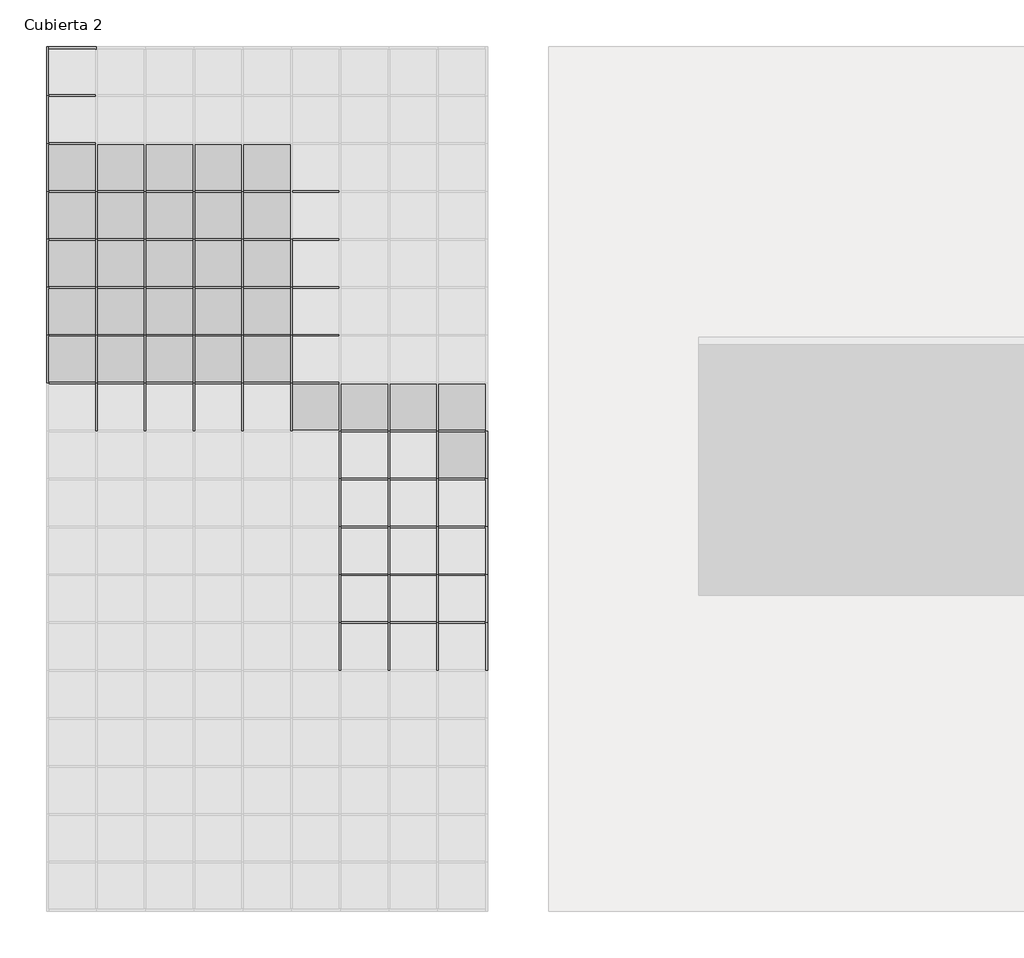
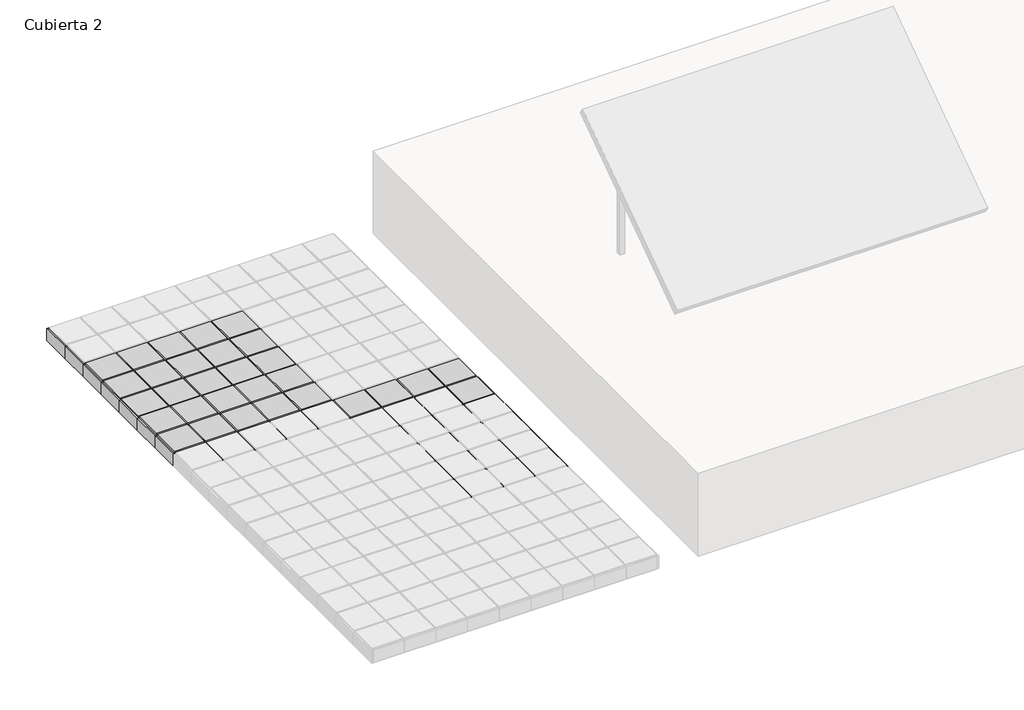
# One storey, part 3 of 4: 99 members, 30 plates.
"""IFC4 building model written with IfcOpenShell, lengths in millimetres."""

from ifc_helpers import new_model, si_unit, origin, place, context, project, spatial, transform, mapped, element, save
from components import montante_rectangular_ea949198, montante_rectangular_18b8adfa, montante_rectangular_e7061a9b, montante_rectangular_b9ac4352, montante_rectangular_c2f012c7, panel_de_sistema_3571c154

model = new_model("IFC4")

# Units and contexts
model_context = context("Model", 3, world=origin())
ifc_project = project(units=[si_unit("LENGTHUNIT", "METRE", prefix="MILLI")], contexts=[model_context])

# Site, building, storey
site = spatial("IfcSite", under=ifc_project)
building = spatial("IfcBuilding", under=site)
storey = spatial("IfcBuildingStorey", under=building, Name="Cubierta 2", Elevation=9000.0)

# Members
placement = place(None, origin())
montante_rectangular_shape = montante_rectangular_ea949198(model_context)
element("IfcMember", 1, ObjectType="Montante rectangular : Junta de paves", at=placement, inside=storey, context=model_context, shape_type="MappedRepresentation", body=[
    mapped(montante_rectangular_shape, transform((-4827.7268467, -6864.3335704, 8750.0), x_axis=(0.0, 1.0, 0.0), y_axis=(0.0, 0.0, -1.0), z_axis=(-1.0, 0.0, 0.0))),
])
element("IfcMember", 2, ObjectType="Montante rectangular : Junta de paves", at=placement, inside=storey, context=model_context, shape_type="MappedRepresentation", body=[
    mapped(montante_rectangular_shape, transform((-4628.8379579, -6864.3335704, 8750.0), x_axis=(0.0, 1.0, 0.0), y_axis=(0.0, 0.0, -1.0), z_axis=(-1.0, 0.0, 0.0))),
])
element("IfcMember", 3, ObjectType="Montante rectangular : Junta de paves", at=placement, inside=storey, context=model_context, shape_type="MappedRepresentation", body=[
    mapped(montante_rectangular_shape, transform((-4429.949069, -6864.3335704, 8750.0), x_axis=(0.0, 1.0, 0.0), y_axis=(0.0, 0.0, -1.0), z_axis=(-1.0, 0.0, 0.0))),
])
element("IfcMember", 4, ObjectType="Montante rectangular : Junta de paves", at=placement, inside=storey, context=model_context, shape_type="MappedRepresentation", body=[
    mapped(montante_rectangular_shape, transform((-4827.7268467, -6668.7780148, 8750.0), x_axis=(0.0, 1.0, 0.0), y_axis=(0.0, 0.0, -1.0), z_axis=(-1.0, 0.0, 0.0))),
])
element("IfcMember", 5, ObjectType="Montante rectangular : Junta de paves", at=placement, inside=storey, context=model_context, shape_type="MappedRepresentation", body=[
    mapped(montante_rectangular_shape, transform((-4628.8379579, -6668.7780148, 8750.0), x_axis=(0.0, 1.0, 0.0), y_axis=(0.0, 0.0, -1.0), z_axis=(-1.0, 0.0, 0.0))),
])
element("IfcMember", 6, ObjectType="Montante rectangular : Junta de paves", at=placement, inside=storey, context=model_context, shape_type="MappedRepresentation", body=[
    mapped(montante_rectangular_shape, transform((-4429.949069, -6668.7780148, 8750.0), x_axis=(0.0, 1.0, 0.0), y_axis=(0.0, 0.0, -1.0), z_axis=(-1.0, 0.0, 0.0))),
])
element("IfcMember", 7, ObjectType="Montante rectangular : Junta de paves", at=placement, inside=storey, context=model_context, shape_type="MappedRepresentation", body=[
    mapped(montante_rectangular_shape, transform((-4827.7268467, -6473.2224592, 8750.0), x_axis=(0.0, 1.0, 0.0), y_axis=(0.0, 0.0, -1.0), z_axis=(-1.0, 0.0, 0.0))),
])
element("IfcMember", 8, ObjectType="Montante rectangular : Junta de paves", at=placement, inside=storey, context=model_context, shape_type="MappedRepresentation", body=[
    mapped(montante_rectangular_shape, transform((-4628.8379579, -6473.2224592, 8750.0), x_axis=(0.0, 1.0, 0.0), y_axis=(0.0, 0.0, -1.0), z_axis=(-1.0, 0.0, 0.0))),
])
element("IfcMember", 9, ObjectType="Montante rectangular : Junta de paves", at=placement, inside=storey, context=model_context, shape_type="MappedRepresentation", body=[
    mapped(montante_rectangular_shape, transform((-4429.949069, -6473.2224592, 8750.0), x_axis=(0.0, 1.0, 0.0), y_axis=(0.0, 0.0, -1.0), z_axis=(-1.0, 0.0, 0.0))),
])
element("IfcMember", 10, ObjectType="Montante rectangular : Junta de paves", at=placement, inside=storey, context=model_context, shape_type="MappedRepresentation", body=[
    mapped(montante_rectangular_shape, transform((-4827.7268467, -6277.6669037, 8750.0), x_axis=(0.0, 1.0, 0.0), y_axis=(0.0, 0.0, -1.0), z_axis=(-1.0, 0.0, 0.0))),
])
element("IfcMember", 11, ObjectType="Montante rectangular : Junta de paves", at=placement, inside=storey, context=model_context, shape_type="MappedRepresentation", body=[
    mapped(montante_rectangular_shape, transform((-4628.8379579, -6277.6669037, 8750.0), x_axis=(0.0, 1.0, 0.0), y_axis=(0.0, 0.0, -1.0), z_axis=(-1.0, 0.0, 0.0))),
])
element("IfcMember", 12, ObjectType="Montante rectangular : Junta de paves", at=placement, inside=storey, context=model_context, shape_type="MappedRepresentation", body=[
    mapped(montante_rectangular_shape, transform((-4429.949069, -6277.6669037, 8750.0), x_axis=(0.0, 1.0, 0.0), y_axis=(0.0, 0.0, -1.0), z_axis=(-1.0, 0.0, 0.0))),
])
element("IfcMember", 13, ObjectType="Montante rectangular : Junta de paves", at=placement, inside=storey, context=model_context, shape_type="MappedRepresentation", body=[
    mapped(montante_rectangular_shape, transform((-4827.7268467, -6082.1113481, 8750.0), x_axis=(0.0, 1.0, 0.0), y_axis=(0.0, 0.0, -1.0), z_axis=(-1.0, 0.0, 0.0))),
])
element("IfcMember", 14, ObjectType="Montante rectangular : Junta de paves", at=placement, inside=storey, context=model_context, shape_type="MappedRepresentation", body=[
    mapped(montante_rectangular_shape, transform((-4628.8379579, -6082.1113481, 8750.0), x_axis=(0.0, 1.0, 0.0), y_axis=(0.0, 0.0, -1.0), z_axis=(-1.0, 0.0, 0.0))),
])
element("IfcMember", 15, ObjectType="Montante rectangular : Junta de paves", at=placement, inside=storey, context=model_context, shape_type="MappedRepresentation", body=[
    mapped(montante_rectangular_shape, transform((-4429.949069, -6082.1113481, 8750.0), x_axis=(0.0, 1.0, 0.0), y_axis=(0.0, 0.0, -1.0), z_axis=(-1.0, 0.0, 0.0))),
])
element("IfcMember", 16, ObjectType="Montante rectangular : Junta de paves", at=placement, inside=storey, context=model_context, shape_type="MappedRepresentation", body=[
    mapped(montante_rectangular_shape, transform((-6021.0601801, -5886.5557926, 8750.0), x_axis=(0.0, 1.0, 0.0), y_axis=(0.0, 0.0, -1.0), z_axis=(-1.0, 0.0, 0.0))),
])
element("IfcMember", 17, ObjectType="Montante rectangular : Junta de paves", at=placement, inside=storey, context=model_context, shape_type="MappedRepresentation", body=[
    mapped(montante_rectangular_shape, transform((-5822.1712912, -5886.5557926, 8750.0), x_axis=(0.0, 1.0, 0.0), y_axis=(0.0, 0.0, -1.0), z_axis=(-1.0, 0.0, 0.0))),
])
element("IfcMember", 18, ObjectType="Montante rectangular : Junta de paves", at=placement, inside=storey, context=model_context, shape_type="MappedRepresentation", body=[
    mapped(montante_rectangular_shape, transform((-5623.2824023, -5886.5557926, 8750.0), x_axis=(0.0, 1.0, 0.0), y_axis=(0.0, 0.0, -1.0), z_axis=(-1.0, 0.0, 0.0))),
])
element("IfcMember", 19, ObjectType="Montante rectangular : Junta de paves", at=placement, inside=storey, context=model_context, shape_type="MappedRepresentation", body=[
    mapped(montante_rectangular_shape, transform((-5424.3935134, -5886.5557926, 8750.0), x_axis=(0.0, 1.0, 0.0), y_axis=(0.0, 0.0, -1.0), z_axis=(-1.0, 0.0, 0.0))),
])
element("IfcMember", 20, ObjectType="Montante rectangular : Junta de paves", at=placement, inside=storey, context=model_context, shape_type="MappedRepresentation", body=[
    mapped(montante_rectangular_shape, transform((-5225.5046245, -5886.5557926, 8750.0), x_axis=(0.0, 1.0, 0.0), y_axis=(0.0, 0.0, -1.0), z_axis=(-1.0, 0.0, 0.0))),
])
element("IfcMember", 21, ObjectType="Montante rectangular : Junta de paves", at=placement, inside=storey, context=model_context, shape_type="MappedRepresentation", body=[
    mapped(montante_rectangular_shape, transform((-5026.6157356, -5886.5557926, 8750.0), x_axis=(0.0, 1.0, 0.0), y_axis=(0.0, 0.0, -1.0), z_axis=(-1.0, 0.0, 0.0))),
])
element("IfcMember", 22, ObjectType="Montante rectangular : Junta de paves", at=placement, inside=storey, context=model_context, shape_type="MappedRepresentation", body=[
    mapped(montante_rectangular_shape, transform((-6021.0601801, -5691.000237, 8750.0), x_axis=(0.0, 1.0, 0.0), y_axis=(0.0, 0.0, -1.0), z_axis=(-1.0, 0.0, 0.0))),
])
element("IfcMember", 23, ObjectType="Montante rectangular : Junta de paves", at=placement, inside=storey, context=model_context, shape_type="MappedRepresentation", body=[
    mapped(montante_rectangular_shape, transform((-5822.1712912, -5691.000237, 8750.0), x_axis=(0.0, 1.0, 0.0), y_axis=(0.0, 0.0, -1.0), z_axis=(-1.0, 0.0, 0.0))),
])
element("IfcMember", 24, ObjectType="Montante rectangular : Junta de paves", at=placement, inside=storey, context=model_context, shape_type="MappedRepresentation", body=[
    mapped(montante_rectangular_shape, transform((-5623.2824023, -5691.000237, 8750.0), x_axis=(0.0, 1.0, 0.0), y_axis=(0.0, 0.0, -1.0), z_axis=(-1.0, 0.0, 0.0))),
])
element("IfcMember", 25, ObjectType="Montante rectangular : Junta de paves", at=placement, inside=storey, context=model_context, shape_type="MappedRepresentation", body=[
    mapped(montante_rectangular_shape, transform((-5424.3935134, -5691.000237, 8750.0), x_axis=(0.0, 1.0, 0.0), y_axis=(0.0, 0.0, -1.0), z_axis=(-1.0, 0.0, 0.0))),
])
element("IfcMember", 26, ObjectType="Montante rectangular : Junta de paves", at=placement, inside=storey, context=model_context, shape_type="MappedRepresentation", body=[
    mapped(montante_rectangular_shape, transform((-5225.5046245, -5691.000237, 8750.0), x_axis=(0.0, 1.0, 0.0), y_axis=(0.0, 0.0, -1.0), z_axis=(-1.0, 0.0, 0.0))),
])
element("IfcMember", 27, ObjectType="Montante rectangular : Junta de paves", at=placement, inside=storey, context=model_context, shape_type="MappedRepresentation", body=[
    mapped(montante_rectangular_shape, transform((-5026.6157356, -5691.000237, 8750.0), x_axis=(0.0, 1.0, 0.0), y_axis=(0.0, 0.0, -1.0), z_axis=(-1.0, 0.0, 0.0))),
])
element("IfcMember", 28, ObjectType="Montante rectangular : Junta de paves", at=placement, inside=storey, context=model_context, shape_type="MappedRepresentation", body=[
    mapped(montante_rectangular_shape, transform((-6021.0601801, -5495.4446815, 8750.0), x_axis=(0.0, 1.0, 0.0), y_axis=(0.0, 0.0, -1.0), z_axis=(-1.0, 0.0, 0.0))),
])
element("IfcMember", 29, ObjectType="Montante rectangular : Junta de paves", at=placement, inside=storey, context=model_context, shape_type="MappedRepresentation", body=[
    mapped(montante_rectangular_shape, transform((-5822.1712912, -5495.4446815, 8750.0), x_axis=(0.0, 1.0, 0.0), y_axis=(0.0, 0.0, -1.0), z_axis=(-1.0, 0.0, 0.0))),
])
element("IfcMember", 30, ObjectType="Montante rectangular : Junta de paves", at=placement, inside=storey, context=model_context, shape_type="MappedRepresentation", body=[
    mapped(montante_rectangular_shape, transform((-5623.2824023, -5495.4446815, 8750.0), x_axis=(0.0, 1.0, 0.0), y_axis=(0.0, 0.0, -1.0), z_axis=(-1.0, 0.0, 0.0))),
])
element("IfcMember", 31, ObjectType="Montante rectangular : Junta de paves", at=placement, inside=storey, context=model_context, shape_type="MappedRepresentation", body=[
    mapped(montante_rectangular_shape, transform((-5424.3935134, -5495.4446815, 8750.0), x_axis=(0.0, 1.0, 0.0), y_axis=(0.0, 0.0, -1.0), z_axis=(-1.0, 0.0, 0.0))),
])
element("IfcMember", 32, ObjectType="Montante rectangular : Junta de paves", at=placement, inside=storey, context=model_context, shape_type="MappedRepresentation", body=[
    mapped(montante_rectangular_shape, transform((-5225.5046245, -5495.4446815, 8750.0), x_axis=(0.0, 1.0, 0.0), y_axis=(0.0, 0.0, -1.0), z_axis=(-1.0, 0.0, 0.0))),
])
element("IfcMember", 33, ObjectType="Montante rectangular : Junta de paves", at=placement, inside=storey, context=model_context, shape_type="MappedRepresentation", body=[
    mapped(montante_rectangular_shape, transform((-5026.6157356, -5495.4446815, 8750.0), x_axis=(0.0, 1.0, 0.0), y_axis=(0.0, 0.0, -1.0), z_axis=(-1.0, 0.0, 0.0))),
])
element("IfcMember", 34, ObjectType="Montante rectangular : Junta de paves", at=placement, inside=storey, context=model_context, shape_type="MappedRepresentation", body=[
    mapped(montante_rectangular_shape, transform((-6021.0601801, -5299.8891259, 8750.0), x_axis=(0.0, 1.0, 0.0), y_axis=(0.0, 0.0, -1.0), z_axis=(-1.0, 0.0, 0.0))),
])
element("IfcMember", 35, ObjectType="Montante rectangular : Junta de paves", at=placement, inside=storey, context=model_context, shape_type="MappedRepresentation", body=[
    mapped(montante_rectangular_shape, transform((-5822.1712912, -5299.8891259, 8750.0), x_axis=(0.0, 1.0, 0.0), y_axis=(0.0, 0.0, -1.0), z_axis=(-1.0, 0.0, 0.0))),
])
element("IfcMember", 36, ObjectType="Montante rectangular : Junta de paves", at=placement, inside=storey, context=model_context, shape_type="MappedRepresentation", body=[
    mapped(montante_rectangular_shape, transform((-5623.2824023, -5299.8891259, 8750.0), x_axis=(0.0, 1.0, 0.0), y_axis=(0.0, 0.0, -1.0), z_axis=(-1.0, 0.0, 0.0))),
])
element("IfcMember", 37, ObjectType="Montante rectangular : Junta de paves", at=placement, inside=storey, context=model_context, shape_type="MappedRepresentation", body=[
    mapped(montante_rectangular_shape, transform((-5424.3935134, -5299.8891259, 8750.0), x_axis=(0.0, 1.0, 0.0), y_axis=(0.0, 0.0, -1.0), z_axis=(-1.0, 0.0, 0.0))),
])
element("IfcMember", 38, ObjectType="Montante rectangular : Junta de paves", at=placement, inside=storey, context=model_context, shape_type="MappedRepresentation", body=[
    mapped(montante_rectangular_shape, transform((-5225.5046245, -5299.8891259, 8750.0), x_axis=(0.0, 1.0, 0.0), y_axis=(0.0, 0.0, -1.0), z_axis=(-1.0, 0.0, 0.0))),
])
element("IfcMember", 39, ObjectType="Montante rectangular : Junta de paves", at=placement, inside=storey, context=model_context, shape_type="MappedRepresentation", body=[
    mapped(montante_rectangular_shape, transform((-5026.6157356, -5299.8891259, 8750.0), x_axis=(0.0, 1.0, 0.0), y_axis=(0.0, 0.0, -1.0), z_axis=(-1.0, 0.0, 0.0))),
])
element("IfcMember", 40, ObjectType="Montante rectangular : Junta de paves", at=placement, inside=storey, context=model_context, shape_type="MappedRepresentation", body=[
    mapped(montante_rectangular_shape, transform((-6021.0601801, -5104.3335704, 8750.0), x_axis=(0.0, 1.0, 0.0), y_axis=(0.0, 0.0, -1.0), z_axis=(-1.0, 0.0, 0.0))),
])
element("IfcMember", 41, ObjectType="Montante rectangular : Junta de paves", at=placement, inside=storey, context=model_context, shape_type="MappedRepresentation", body=[
    mapped(montante_rectangular_shape, transform((-5822.1712912, -5104.3335704, 8750.0), x_axis=(0.0, 1.0, 0.0), y_axis=(0.0, 0.0, -1.0), z_axis=(-1.0, 0.0, 0.0))),
])
element("IfcMember", 42, ObjectType="Montante rectangular : Junta de paves", at=placement, inside=storey, context=model_context, shape_type="MappedRepresentation", body=[
    mapped(montante_rectangular_shape, transform((-5623.2824023, -5104.3335704, 8750.0), x_axis=(0.0, 1.0, 0.0), y_axis=(0.0, 0.0, -1.0), z_axis=(-1.0, 0.0, 0.0))),
])
element("IfcMember", 43, ObjectType="Montante rectangular : Junta de paves", at=placement, inside=storey, context=model_context, shape_type="MappedRepresentation", body=[
    mapped(montante_rectangular_shape, transform((-5424.3935134, -5104.3335704, 8750.0), x_axis=(0.0, 1.0, 0.0), y_axis=(0.0, 0.0, -1.0), z_axis=(-1.0, 0.0, 0.0))),
])
element("IfcMember", 44, ObjectType="Montante rectangular : Junta de paves", at=placement, inside=storey, context=model_context, shape_type="MappedRepresentation", body=[
    mapped(montante_rectangular_shape, transform((-5225.5046245, -5104.3335704, 8750.0), x_axis=(0.0, 1.0, 0.0), y_axis=(0.0, 0.0, -1.0), z_axis=(-1.0, 0.0, 0.0))),
])
element("IfcMember", 45, ObjectType="Montante rectangular : Junta de paves", at=placement, inside=storey, context=model_context, shape_type="MappedRepresentation", body=[
    mapped(montante_rectangular_shape, transform((-5026.6157356, -5104.3335704, 8750.0), x_axis=(0.0, 1.0, 0.0), y_axis=(0.0, 0.0, -1.0), z_axis=(-1.0, 0.0, 0.0))),
])
element("IfcMember", 46, ObjectType="Montante rectangular : Junta de paves", at=placement, inside=storey, context=model_context, shape_type="MappedRepresentation", body=[
    mapped(montante_rectangular_shape, transform((-6021.0601801, -4908.7780148, 8750.0), x_axis=(0.0, 1.0, 0.0), y_axis=(0.0, 0.0, -1.0), z_axis=(-1.0, 0.0, 0.0))),
])
element("IfcMember", 47, ObjectType="Montante rectangular : Junta de paves", at=placement, inside=storey, context=model_context, shape_type="MappedRepresentation", body=[
    mapped(montante_rectangular_shape, transform((-6021.0601801, -4713.2224592, 8750.0), x_axis=(0.0, 1.0, 0.0), y_axis=(0.0, 0.0, -1.0), z_axis=(-1.0, 0.0, 0.0))),
])
montante_rectangular_2_shape = montante_rectangular_18b8adfa(model_context)
element("IfcMember", 48, ObjectType="Montante rectangular : Junta de paves", at=placement, inside=storey, context=model_context, shape_type="MappedRepresentation", body=[
    mapped(montante_rectangular_2_shape, transform((-4832.7268467, -6864.3335704, 8750.0), x_axis=(1.0, 0.0, 0.0), y_axis=(0.0, 0.0, -1.0), z_axis=(0.0, 1.0, 0.0))),
])
element("IfcMember", 49, ObjectType="Montante rectangular : Junta de paves", at=placement, inside=storey, context=model_context, shape_type="MappedRepresentation", body=[
    mapped(montante_rectangular_2_shape, transform((-4633.8379579, -6864.3335704, 8750.0), x_axis=(1.0, 0.0, 0.0), y_axis=(0.0, 0.0, -1.0), z_axis=(0.0, 1.0, 0.0))),
])
element("IfcMember", 50, ObjectType="Montante rectangular : Junta de paves", at=placement, inside=storey, context=model_context, shape_type="MappedRepresentation", body=[
    mapped(montante_rectangular_2_shape, transform((-4434.949069, -6864.3335704, 8750.0), x_axis=(1.0, 0.0, 0.0), y_axis=(0.0, 0.0, -1.0), z_axis=(0.0, 1.0, 0.0))),
])
element("IfcMember", 51, ObjectType="Montante rectangular : Junta de paves", at=placement, inside=storey, context=model_context, shape_type="MappedRepresentation", body=[
    mapped(montante_rectangular_2_shape, transform((-4832.7268467, -6668.7780148, 8750.0), x_axis=(1.0, 0.0, 0.0), y_axis=(0.0, 0.0, -1.0), z_axis=(0.0, 1.0, 0.0))),
])
element("IfcMember", 52, ObjectType="Montante rectangular : Junta de paves", at=placement, inside=storey, context=model_context, shape_type="MappedRepresentation", body=[
    mapped(montante_rectangular_2_shape, transform((-4633.8379579, -6668.7780148, 8750.0), x_axis=(1.0, 0.0, 0.0), y_axis=(0.0, 0.0, -1.0), z_axis=(0.0, 1.0, 0.0))),
])
element("IfcMember", 53, ObjectType="Montante rectangular : Junta de paves", at=placement, inside=storey, context=model_context, shape_type="MappedRepresentation", body=[
    mapped(montante_rectangular_2_shape, transform((-4434.949069, -6668.7780148, 8750.0), x_axis=(1.0, 0.0, 0.0), y_axis=(0.0, 0.0, -1.0), z_axis=(0.0, 1.0, 0.0))),
])
element("IfcMember", 54, ObjectType="Montante rectangular : Junta de paves", at=placement, inside=storey, context=model_context, shape_type="MappedRepresentation", body=[
    mapped(montante_rectangular_2_shape, transform((-4832.7268467, -6473.2224592, 8750.0), x_axis=(1.0, 0.0, 0.0), y_axis=(0.0, 0.0, -1.0), z_axis=(0.0, 1.0, 0.0))),
])
element("IfcMember", 55, ObjectType="Montante rectangular : Junta de paves", at=placement, inside=storey, context=model_context, shape_type="MappedRepresentation", body=[
    mapped(montante_rectangular_2_shape, transform((-4633.8379579, -6473.2224592, 8750.0), x_axis=(1.0, 0.0, 0.0), y_axis=(0.0, 0.0, -1.0), z_axis=(0.0, 1.0, 0.0))),
])
element("IfcMember", 56, ObjectType="Montante rectangular : Junta de paves", at=placement, inside=storey, context=model_context, shape_type="MappedRepresentation", body=[
    mapped(montante_rectangular_2_shape, transform((-4434.949069, -6473.2224592, 8750.0), x_axis=(1.0, 0.0, 0.0), y_axis=(0.0, 0.0, -1.0), z_axis=(0.0, 1.0, 0.0))),
])
element("IfcMember", 57, ObjectType="Montante rectangular : Junta de paves", at=placement, inside=storey, context=model_context, shape_type="MappedRepresentation", body=[
    mapped(montante_rectangular_2_shape, transform((-4832.7268467, -6277.6669037, 8750.0), x_axis=(1.0, 0.0, 0.0), y_axis=(0.0, 0.0, -1.0), z_axis=(0.0, 1.0, 0.0))),
])
element("IfcMember", 58, ObjectType="Montante rectangular : Junta de paves", at=placement, inside=storey, context=model_context, shape_type="MappedRepresentation", body=[
    mapped(montante_rectangular_2_shape, transform((-4633.8379579, -6277.6669037, 8750.0), x_axis=(1.0, 0.0, 0.0), y_axis=(0.0, 0.0, -1.0), z_axis=(0.0, 1.0, 0.0))),
])
element("IfcMember", 59, ObjectType="Montante rectangular : Junta de paves", at=placement, inside=storey, context=model_context, shape_type="MappedRepresentation", body=[
    mapped(montante_rectangular_2_shape, transform((-4434.949069, -6277.6669037, 8750.0), x_axis=(1.0, 0.0, 0.0), y_axis=(0.0, 0.0, -1.0), z_axis=(0.0, 1.0, 0.0))),
])
element("IfcMember", 60, ObjectType="Montante rectangular : Junta de paves", at=placement, inside=storey, context=model_context, shape_type="MappedRepresentation", body=[
    mapped(montante_rectangular_2_shape, transform((-4832.7268467, -6082.1113481, 8750.0), x_axis=(1.0, 0.0, 0.0), y_axis=(0.0, 0.0, -1.0), z_axis=(0.0, 1.0, 0.0))),
])
element("IfcMember", 61, ObjectType="Montante rectangular : Junta de paves", at=placement, inside=storey, context=model_context, shape_type="MappedRepresentation", body=[
    mapped(montante_rectangular_2_shape, transform((-4633.8379579, -6082.1113481, 8750.0), x_axis=(1.0, 0.0, 0.0), y_axis=(0.0, 0.0, -1.0), z_axis=(0.0, 1.0, 0.0))),
])
element("IfcMember", 62, ObjectType="Montante rectangular : Junta de paves", at=placement, inside=storey, context=model_context, shape_type="MappedRepresentation", body=[
    mapped(montante_rectangular_2_shape, transform((-4434.949069, -6082.1113481, 8750.0), x_axis=(1.0, 0.0, 0.0), y_axis=(0.0, 0.0, -1.0), z_axis=(0.0, 1.0, 0.0))),
])
element("IfcMember", 63, ObjectType="Montante rectangular : Junta de paves", at=placement, inside=storey, context=model_context, shape_type="MappedRepresentation", body=[
    mapped(montante_rectangular_2_shape, transform((-5827.1712912, -5886.5557926, 8750.0), x_axis=(1.0, 0.0, 0.0), y_axis=(0.0, 0.0, -1.0), z_axis=(0.0, 1.0, 0.0))),
])
element("IfcMember", 64, ObjectType="Montante rectangular : Junta de paves", at=placement, inside=storey, context=model_context, shape_type="MappedRepresentation", body=[
    mapped(montante_rectangular_2_shape, transform((-5628.2824023, -5886.5557926, 8750.0), x_axis=(1.0, 0.0, 0.0), y_axis=(0.0, 0.0, -1.0), z_axis=(0.0, 1.0, 0.0))),
])
element("IfcMember", 65, ObjectType="Montante rectangular : Junta de paves", at=placement, inside=storey, context=model_context, shape_type="MappedRepresentation", body=[
    mapped(montante_rectangular_2_shape, transform((-5429.3935134, -5886.5557926, 8750.0), x_axis=(1.0, 0.0, 0.0), y_axis=(0.0, 0.0, -1.0), z_axis=(0.0, 1.0, 0.0))),
])
element("IfcMember", 66, ObjectType="Montante rectangular : Junta de paves", at=placement, inside=storey, context=model_context, shape_type="MappedRepresentation", body=[
    mapped(montante_rectangular_2_shape, transform((-5230.5046245, -5886.5557926, 8750.0), x_axis=(1.0, 0.0, 0.0), y_axis=(0.0, 0.0, -1.0), z_axis=(0.0, 1.0, 0.0))),
])
element("IfcMember", 67, ObjectType="Montante rectangular : Junta de paves", at=placement, inside=storey, context=model_context, shape_type="MappedRepresentation", body=[
    mapped(montante_rectangular_2_shape, transform((-5031.6157356, -5886.5557926, 8750.0), x_axis=(1.0, 0.0, 0.0), y_axis=(0.0, 0.0, -1.0), z_axis=(0.0, 1.0, 0.0))),
])
element("IfcMember", 68, ObjectType="Montante rectangular : Junta de paves", at=placement, inside=storey, context=model_context, shape_type="MappedRepresentation", body=[
    mapped(montante_rectangular_2_shape, transform((-5827.1712912, -5691.000237, 8750.0), x_axis=(1.0, 0.0, 0.0), y_axis=(0.0, 0.0, -1.0), z_axis=(0.0, 1.0, 0.0))),
])
element("IfcMember", 69, ObjectType="Montante rectangular : Junta de paves", at=placement, inside=storey, context=model_context, shape_type="MappedRepresentation", body=[
    mapped(montante_rectangular_2_shape, transform((-5628.2824023, -5691.000237, 8750.0), x_axis=(1.0, 0.0, 0.0), y_axis=(0.0, 0.0, -1.0), z_axis=(0.0, 1.0, 0.0))),
])
element("IfcMember", 70, ObjectType="Montante rectangular : Junta de paves", at=placement, inside=storey, context=model_context, shape_type="MappedRepresentation", body=[
    mapped(montante_rectangular_2_shape, transform((-5429.3935134, -5691.000237, 8750.0), x_axis=(1.0, 0.0, 0.0), y_axis=(0.0, 0.0, -1.0), z_axis=(0.0, 1.0, 0.0))),
])
element("IfcMember", 71, ObjectType="Montante rectangular : Junta de paves", at=placement, inside=storey, context=model_context, shape_type="MappedRepresentation", body=[
    mapped(montante_rectangular_2_shape, transform((-5230.5046245, -5691.000237, 8750.0), x_axis=(1.0, 0.0, 0.0), y_axis=(0.0, 0.0, -1.0), z_axis=(0.0, 1.0, 0.0))),
])
element("IfcMember", 72, ObjectType="Montante rectangular : Junta de paves", at=placement, inside=storey, context=model_context, shape_type="MappedRepresentation", body=[
    mapped(montante_rectangular_2_shape, transform((-5031.6157356, -5691.000237, 8750.0), x_axis=(1.0, 0.0, 0.0), y_axis=(0.0, 0.0, -1.0), z_axis=(0.0, 1.0, 0.0))),
])
element("IfcMember", 73, ObjectType="Montante rectangular : Junta de paves", at=placement, inside=storey, context=model_context, shape_type="MappedRepresentation", body=[
    mapped(montante_rectangular_2_shape, transform((-5827.1712912, -5495.4446815, 8750.0), x_axis=(1.0, 0.0, 0.0), y_axis=(0.0, 0.0, -1.0), z_axis=(0.0, 1.0, 0.0))),
])
element("IfcMember", 74, ObjectType="Montante rectangular : Junta de paves", at=placement, inside=storey, context=model_context, shape_type="MappedRepresentation", body=[
    mapped(montante_rectangular_2_shape, transform((-5628.2824023, -5495.4446815, 8750.0), x_axis=(1.0, 0.0, 0.0), y_axis=(0.0, 0.0, -1.0), z_axis=(0.0, 1.0, 0.0))),
])
element("IfcMember", 75, ObjectType="Montante rectangular : Junta de paves", at=placement, inside=storey, context=model_context, shape_type="MappedRepresentation", body=[
    mapped(montante_rectangular_2_shape, transform((-5429.3935134, -5495.4446815, 8750.0), x_axis=(1.0, 0.0, 0.0), y_axis=(0.0, 0.0, -1.0), z_axis=(0.0, 1.0, 0.0))),
])
element("IfcMember", 76, ObjectType="Montante rectangular : Junta de paves", at=placement, inside=storey, context=model_context, shape_type="MappedRepresentation", body=[
    mapped(montante_rectangular_2_shape, transform((-5230.5046245, -5495.4446815, 8750.0), x_axis=(1.0, 0.0, 0.0), y_axis=(0.0, 0.0, -1.0), z_axis=(0.0, 1.0, 0.0))),
])
element("IfcMember", 77, ObjectType="Montante rectangular : Junta de paves", at=placement, inside=storey, context=model_context, shape_type="MappedRepresentation", body=[
    mapped(montante_rectangular_2_shape, transform((-5031.6157356, -5495.4446815, 8750.0), x_axis=(1.0, 0.0, 0.0), y_axis=(0.0, 0.0, -1.0), z_axis=(0.0, 1.0, 0.0))),
])
element("IfcMember", 78, ObjectType="Montante rectangular : Junta de paves", at=placement, inside=storey, context=model_context, shape_type="MappedRepresentation", body=[
    mapped(montante_rectangular_2_shape, transform((-5827.1712912, -5299.8891259, 8750.0), x_axis=(1.0, 0.0, 0.0), y_axis=(0.0, 0.0, -1.0), z_axis=(0.0, 1.0, 0.0))),
])
element("IfcMember", 79, ObjectType="Montante rectangular : Junta de paves", at=placement, inside=storey, context=model_context, shape_type="MappedRepresentation", body=[
    mapped(montante_rectangular_2_shape, transform((-5628.2824023, -5299.8891259, 8750.0), x_axis=(1.0, 0.0, 0.0), y_axis=(0.0, 0.0, -1.0), z_axis=(0.0, 1.0, 0.0))),
])
element("IfcMember", 80, ObjectType="Montante rectangular : Junta de paves", at=placement, inside=storey, context=model_context, shape_type="MappedRepresentation", body=[
    mapped(montante_rectangular_2_shape, transform((-5429.3935134, -5299.8891259, 8750.0), x_axis=(1.0, 0.0, 0.0), y_axis=(0.0, 0.0, -1.0), z_axis=(0.0, 1.0, 0.0))),
])
element("IfcMember", 81, ObjectType="Montante rectangular : Junta de paves", at=placement, inside=storey, context=model_context, shape_type="MappedRepresentation", body=[
    mapped(montante_rectangular_2_shape, transform((-5230.5046245, -5299.8891259, 8750.0), x_axis=(1.0, 0.0, 0.0), y_axis=(0.0, 0.0, -1.0), z_axis=(0.0, 1.0, 0.0))),
])
element("IfcMember", 82, ObjectType="Montante rectangular : Junta de paves", at=placement, inside=storey, context=model_context, shape_type="MappedRepresentation", body=[
    mapped(montante_rectangular_2_shape, transform((-5031.6157356, -5299.8891259, 8750.0), x_axis=(1.0, 0.0, 0.0), y_axis=(0.0, 0.0, -1.0), z_axis=(0.0, 1.0, 0.0))),
])
element("IfcMember", 83, ObjectType="Montante rectangular : Junta de paves", at=placement, inside=storey, context=model_context, shape_type="MappedRepresentation", body=[
    mapped(montante_rectangular_2_shape, transform((-5827.1712912, -5104.3335704, 8750.0), x_axis=(1.0, 0.0, 0.0), y_axis=(0.0, 0.0, -1.0), z_axis=(0.0, 1.0, 0.0))),
])
element("IfcMember", 84, ObjectType="Montante rectangular : Junta de paves", at=placement, inside=storey, context=model_context, shape_type="MappedRepresentation", body=[
    mapped(montante_rectangular_2_shape, transform((-5628.2824023, -5104.3335704, 8750.0), x_axis=(1.0, 0.0, 0.0), y_axis=(0.0, 0.0, -1.0), z_axis=(0.0, 1.0, 0.0))),
])
element("IfcMember", 85, ObjectType="Montante rectangular : Junta de paves", at=placement, inside=storey, context=model_context, shape_type="MappedRepresentation", body=[
    mapped(montante_rectangular_2_shape, transform((-5429.3935134, -5104.3335704, 8750.0), x_axis=(1.0, 0.0, 0.0), y_axis=(0.0, 0.0, -1.0), z_axis=(0.0, 1.0, 0.0))),
])
element("IfcMember", 86, ObjectType="Montante rectangular : Junta de paves", at=placement, inside=storey, context=model_context, shape_type="MappedRepresentation", body=[
    mapped(montante_rectangular_2_shape, transform((-5230.5046245, -5104.3335704, 8750.0), x_axis=(1.0, 0.0, 0.0), y_axis=(0.0, 0.0, -1.0), z_axis=(0.0, 1.0, 0.0))),
])
montante_rectangular_3_shape = montante_rectangular_e7061a9b(model_context)
element("IfcMember", 87, ObjectType="Montante rectangular : Junta de paves", at=placement, inside=storey, context=model_context, shape_type="MappedRepresentation", body=[
    mapped(montante_rectangular_3_shape, transform((-6021.0601801, -4512.6669037, 8750.0), x_axis=(0.0, 1.0, 0.0), y_axis=(0.0, 0.0, -1.0), z_axis=(-1.0, 0.0, 0.0))),
])
montante_rectangular_4_shape = montante_rectangular_b9ac4352(model_context)
element("IfcMember", 88, ObjectType="Montante rectangular : Junta de paves", at=placement, inside=storey, context=model_context, shape_type="MappedRepresentation", body=[
    mapped(montante_rectangular_4_shape, transform((-6031.0601801, -5886.5557926, 8750.0), x_axis=(-1.0, 0.0, 0.0), y_axis=(0.0, 0.0, -1.0), z_axis=(0.0, -1.0, 0.0))),
])
element("IfcMember", 89, ObjectType="Montante rectangular : Junta de paves", at=placement, inside=storey, context=model_context, shape_type="MappedRepresentation", body=[
    mapped(montante_rectangular_4_shape, transform((-6031.0601801, -5691.000237, 8750.0), x_axis=(-1.0, 0.0, 0.0), y_axis=(0.0, 0.0, -1.0), z_axis=(0.0, -1.0, 0.0))),
])
element("IfcMember", 90, ObjectType="Montante rectangular : Junta de paves", at=placement, inside=storey, context=model_context, shape_type="MappedRepresentation", body=[
    mapped(montante_rectangular_4_shape, transform((-6031.0601801, -5495.4446815, 8750.0), x_axis=(-1.0, 0.0, 0.0), y_axis=(0.0, 0.0, -1.0), z_axis=(0.0, -1.0, 0.0))),
])
element("IfcMember", 91, ObjectType="Montante rectangular : Junta de paves", at=placement, inside=storey, context=model_context, shape_type="MappedRepresentation", body=[
    mapped(montante_rectangular_4_shape, transform((-6031.0601801, -5299.8891259, 8750.0), x_axis=(-1.0, 0.0, 0.0), y_axis=(0.0, 0.0, -1.0), z_axis=(0.0, -1.0, 0.0))),
])
element("IfcMember", 92, ObjectType="Montante rectangular : Junta de paves", at=placement, inside=storey, context=model_context, shape_type="MappedRepresentation", body=[
    mapped(montante_rectangular_4_shape, transform((-6031.0601801, -5104.3335704, 8750.0), x_axis=(-1.0, 0.0, 0.0), y_axis=(0.0, 0.0, -1.0), z_axis=(0.0, -1.0, 0.0))),
])
element("IfcMember", 93, ObjectType="Montante rectangular : Junta de paves", at=placement, inside=storey, context=model_context, shape_type="MappedRepresentation", body=[
    mapped(montante_rectangular_4_shape, transform((-6031.0601801, -4908.7780148, 8750.0), x_axis=(-1.0, 0.0, 0.0), y_axis=(0.0, 0.0, -1.0), z_axis=(0.0, -1.0, 0.0))),
])
element("IfcMember", 94, ObjectType="Montante rectangular : Junta de paves", at=placement, inside=storey, context=model_context, shape_type="MappedRepresentation", body=[
    mapped(montante_rectangular_4_shape, transform((-4231.0601801, -6864.3335704, 8750.0), x_axis=(1.0, 0.0, 0.0), y_axis=(0.0, 0.0, -1.0), z_axis=(0.0, 1.0, 0.0))),
])
element("IfcMember", 95, ObjectType="Montante rectangular : Junta de paves", at=placement, inside=storey, context=model_context, shape_type="MappedRepresentation", body=[
    mapped(montante_rectangular_4_shape, transform((-4231.0601801, -6668.7780148, 8750.0), x_axis=(1.0, 0.0, 0.0), y_axis=(0.0, 0.0, -1.0), z_axis=(0.0, 1.0, 0.0))),
])
element("IfcMember", 96, ObjectType="Montante rectangular : Junta de paves", at=placement, inside=storey, context=model_context, shape_type="MappedRepresentation", body=[
    mapped(montante_rectangular_4_shape, transform((-4231.0601801, -6473.2224592, 8750.0), x_axis=(1.0, 0.0, 0.0), y_axis=(0.0, 0.0, -1.0), z_axis=(0.0, 1.0, 0.0))),
])
element("IfcMember", 97, ObjectType="Montante rectangular : Junta de paves", at=placement, inside=storey, context=model_context, shape_type="MappedRepresentation", body=[
    mapped(montante_rectangular_4_shape, transform((-4231.0601801, -6277.6669037, 8750.0), x_axis=(1.0, 0.0, 0.0), y_axis=(0.0, 0.0, -1.0), z_axis=(0.0, 1.0, 0.0))),
])
element("IfcMember", 98, ObjectType="Montante rectangular : Junta de paves", at=placement, inside=storey, context=model_context, shape_type="MappedRepresentation", body=[
    mapped(montante_rectangular_4_shape, transform((-4231.0601801, -6082.1113481, 8750.0), x_axis=(1.0, 0.0, 0.0), y_axis=(0.0, 0.0, -1.0), z_axis=(0.0, 1.0, 0.0))),
])
montante_rectangular_5_shape = montante_rectangular_c2f012c7(model_context)
element("IfcMember", 99, ObjectType="Montante rectangular : Junta de paves", at=placement, inside=storey, context=model_context, shape_type="MappedRepresentation", body=[
    mapped(montante_rectangular_5_shape, transform((-6031.0601801, -4713.2224592, 8750.0), x_axis=(-1.0, 0.0, 0.0), y_axis=(0.0, 0.0, -1.0), z_axis=(0.0, -1.0, 0.0))),
])

# Plates
panel_de_sistema_shape = panel_de_sistema_3571c154(model_context)
element("IfcPlate", 100, ObjectType="Panel de sistema : PAVES", at=placement, inside=storey, context=model_context, shape_type="MappedRepresentation", body=[
    mapped(panel_de_sistema_shape, transform((-4335.5046245, -6272.6669037, 8750.0), x_axis=(1.0, 0.0, 0.0), y_axis=(0.0, 0.0, -1.0), z_axis=(0.0, 1.0, 0.0))),
])
element("IfcPlate", 101, ObjectType="Panel de sistema : PAVES", at=placement, inside=storey, context=model_context, shape_type="MappedRepresentation", body=[
    mapped(panel_de_sistema_shape, transform((-4932.1712912, -6077.1113481, 8750.0), x_axis=(1.0, 0.0, 0.0), y_axis=(0.0, 0.0, -1.0), z_axis=(0.0, 1.0, 0.0))),
])
element("IfcPlate", 102, ObjectType="Panel de sistema : PAVES", at=placement, inside=storey, context=model_context, shape_type="MappedRepresentation", body=[
    mapped(panel_de_sistema_shape, transform((-4733.2824023, -6077.1113481, 8750.0), x_axis=(1.0, 0.0, 0.0), y_axis=(0.0, 0.0, -1.0), z_axis=(0.0, 1.0, 0.0))),
])
element("IfcPlate", 103, ObjectType="Panel de sistema : PAVES", at=placement, inside=storey, context=model_context, shape_type="MappedRepresentation", body=[
    mapped(panel_de_sistema_shape, transform((-4534.3935134, -6077.1113481, 8750.0), x_axis=(1.0, 0.0, 0.0), y_axis=(0.0, 0.0, -1.0), z_axis=(0.0, 1.0, 0.0))),
])
element("IfcPlate", 104, ObjectType="Panel de sistema : PAVES", at=placement, inside=storey, context=model_context, shape_type="MappedRepresentation", body=[
    mapped(panel_de_sistema_shape, transform((-4335.5046245, -6077.1113481, 8750.0), x_axis=(1.0, 0.0, 0.0), y_axis=(0.0, 0.0, -1.0), z_axis=(0.0, 1.0, 0.0))),
])
element("IfcPlate", 105, ObjectType="Panel de sistema : PAVES", at=placement, inside=storey, context=model_context, shape_type="MappedRepresentation", body=[
    mapped(panel_de_sistema_shape, transform((-5926.6157356, -5881.5557926, 8750.0), x_axis=(1.0, 0.0, 0.0), y_axis=(0.0, 0.0, -1.0), z_axis=(0.0, 1.0, 0.0))),
])
element("IfcPlate", 106, ObjectType="Panel de sistema : PAVES", at=placement, inside=storey, context=model_context, shape_type="MappedRepresentation", body=[
    mapped(panel_de_sistema_shape, transform((-5727.7268467, -5881.5557926, 8750.0), x_axis=(1.0, 0.0, 0.0), y_axis=(0.0, 0.0, -1.0), z_axis=(0.0, 1.0, 0.0))),
])
element("IfcPlate", 107, ObjectType="Panel de sistema : PAVES", at=placement, inside=storey, context=model_context, shape_type="MappedRepresentation", body=[
    mapped(panel_de_sistema_shape, transform((-5528.8379579, -5881.5557926, 8750.0), x_axis=(1.0, 0.0, 0.0), y_axis=(0.0, 0.0, -1.0), z_axis=(0.0, 1.0, 0.0))),
])
element("IfcPlate", 108, ObjectType="Panel de sistema : PAVES", at=placement, inside=storey, context=model_context, shape_type="MappedRepresentation", body=[
    mapped(panel_de_sistema_shape, transform((-5329.949069, -5881.5557926, 8750.0), x_axis=(1.0, 0.0, 0.0), y_axis=(0.0, 0.0, -1.0), z_axis=(0.0, 1.0, 0.0))),
])
element("IfcPlate", 109, ObjectType="Panel de sistema : PAVES", at=placement, inside=storey, context=model_context, shape_type="MappedRepresentation", body=[
    mapped(panel_de_sistema_shape, transform((-5131.0601801, -5881.5557926, 8750.0), x_axis=(1.0, 0.0, 0.0), y_axis=(0.0, 0.0, -1.0), z_axis=(0.0, 1.0, 0.0))),
])
element("IfcPlate", 110, ObjectType="Panel de sistema : PAVES", at=placement, inside=storey, context=model_context, shape_type="MappedRepresentation", body=[
    mapped(panel_de_sistema_shape, transform((-5926.6157356, -5686.000237, 8750.0), x_axis=(1.0, 0.0, 0.0), y_axis=(0.0, 0.0, -1.0), z_axis=(0.0, 1.0, 0.0))),
])
element("IfcPlate", 111, ObjectType="Panel de sistema : PAVES", at=placement, inside=storey, context=model_context, shape_type="MappedRepresentation", body=[
    mapped(panel_de_sistema_shape, transform((-5727.7268467, -5686.000237, 8750.0), x_axis=(1.0, 0.0, 0.0), y_axis=(0.0, 0.0, -1.0), z_axis=(0.0, 1.0, 0.0))),
])
element("IfcPlate", 112, ObjectType="Panel de sistema : PAVES", at=placement, inside=storey, context=model_context, shape_type="MappedRepresentation", body=[
    mapped(panel_de_sistema_shape, transform((-5528.8379579, -5686.000237, 8750.0), x_axis=(1.0, 0.0, 0.0), y_axis=(0.0, 0.0, -1.0), z_axis=(0.0, 1.0, 0.0))),
])
element("IfcPlate", 113, ObjectType="Panel de sistema : PAVES", at=placement, inside=storey, context=model_context, shape_type="MappedRepresentation", body=[
    mapped(panel_de_sistema_shape, transform((-5329.949069, -5686.000237, 8750.0), x_axis=(1.0, 0.0, 0.0), y_axis=(0.0, 0.0, -1.0), z_axis=(0.0, 1.0, 0.0))),
])
element("IfcPlate", 114, ObjectType="Panel de sistema : PAVES", at=placement, inside=storey, context=model_context, shape_type="MappedRepresentation", body=[
    mapped(panel_de_sistema_shape, transform((-5131.0601801, -5686.000237, 8750.0), x_axis=(1.0, 0.0, 0.0), y_axis=(0.0, 0.0, -1.0), z_axis=(0.0, 1.0, 0.0))),
])
element("IfcPlate", 115, ObjectType="Panel de sistema : PAVES", at=placement, inside=storey, context=model_context, shape_type="MappedRepresentation", body=[
    mapped(panel_de_sistema_shape, transform((-5926.6157356, -5490.4446815, 8750.0), x_axis=(1.0, 0.0, 0.0), y_axis=(0.0, 0.0, -1.0), z_axis=(0.0, 1.0, 0.0))),
])
element("IfcPlate", 116, ObjectType="Panel de sistema : PAVES", at=placement, inside=storey, context=model_context, shape_type="MappedRepresentation", body=[
    mapped(panel_de_sistema_shape, transform((-5727.7268467, -5490.4446815, 8750.0), x_axis=(1.0, 0.0, 0.0), y_axis=(0.0, 0.0, -1.0), z_axis=(0.0, 1.0, 0.0))),
])
element("IfcPlate", 117, ObjectType="Panel de sistema : PAVES", at=placement, inside=storey, context=model_context, shape_type="MappedRepresentation", body=[
    mapped(panel_de_sistema_shape, transform((-5528.8379579, -5490.4446815, 8750.0), x_axis=(1.0, 0.0, 0.0), y_axis=(0.0, 0.0, -1.0), z_axis=(0.0, 1.0, 0.0))),
])
element("IfcPlate", 118, ObjectType="Panel de sistema : PAVES", at=placement, inside=storey, context=model_context, shape_type="MappedRepresentation", body=[
    mapped(panel_de_sistema_shape, transform((-5329.949069, -5490.4446815, 8750.0), x_axis=(1.0, 0.0, 0.0), y_axis=(0.0, 0.0, -1.0), z_axis=(0.0, 1.0, 0.0))),
])
element("IfcPlate", 119, ObjectType="Panel de sistema : PAVES", at=placement, inside=storey, context=model_context, shape_type="MappedRepresentation", body=[
    mapped(panel_de_sistema_shape, transform((-5131.0601801, -5490.4446815, 8750.0), x_axis=(1.0, 0.0, 0.0), y_axis=(0.0, 0.0, -1.0), z_axis=(0.0, 1.0, 0.0))),
])
element("IfcPlate", 120, ObjectType="Panel de sistema : PAVES", at=placement, inside=storey, context=model_context, shape_type="MappedRepresentation", body=[
    mapped(panel_de_sistema_shape, transform((-5926.6157356, -5294.8891259, 8750.0), x_axis=(1.0, 0.0, 0.0), y_axis=(0.0, 0.0, -1.0), z_axis=(0.0, 1.0, 0.0))),
])
element("IfcPlate", 121, ObjectType="Panel de sistema : PAVES", at=placement, inside=storey, context=model_context, shape_type="MappedRepresentation", body=[
    mapped(panel_de_sistema_shape, transform((-5727.7268467, -5294.8891259, 8750.0), x_axis=(1.0, 0.0, 0.0), y_axis=(0.0, 0.0, -1.0), z_axis=(0.0, 1.0, 0.0))),
])
element("IfcPlate", 122, ObjectType="Panel de sistema : PAVES", at=placement, inside=storey, context=model_context, shape_type="MappedRepresentation", body=[
    mapped(panel_de_sistema_shape, transform((-5528.8379579, -5294.8891259, 8750.0), x_axis=(1.0, 0.0, 0.0), y_axis=(0.0, 0.0, -1.0), z_axis=(0.0, 1.0, 0.0))),
])
element("IfcPlate", 123, ObjectType="Panel de sistema : PAVES", at=placement, inside=storey, context=model_context, shape_type="MappedRepresentation", body=[
    mapped(panel_de_sistema_shape, transform((-5329.949069, -5294.8891259, 8750.0), x_axis=(1.0, 0.0, 0.0), y_axis=(0.0, 0.0, -1.0), z_axis=(0.0, 1.0, 0.0))),
])
element("IfcPlate", 124, ObjectType="Panel de sistema : PAVES", at=placement, inside=storey, context=model_context, shape_type="MappedRepresentation", body=[
    mapped(panel_de_sistema_shape, transform((-5131.0601801, -5294.8891259, 8750.0), x_axis=(1.0, 0.0, 0.0), y_axis=(0.0, 0.0, -1.0), z_axis=(0.0, 1.0, 0.0))),
])
element("IfcPlate", 125, ObjectType="Panel de sistema : PAVES", at=placement, inside=storey, context=model_context, shape_type="MappedRepresentation", body=[
    mapped(panel_de_sistema_shape, transform((-5926.6157356, -5099.3335704, 8750.0), x_axis=(1.0, 0.0, 0.0), y_axis=(0.0, 0.0, -1.0), z_axis=(0.0, 1.0, 0.0))),
])
element("IfcPlate", 126, ObjectType="Panel de sistema : PAVES", at=placement, inside=storey, context=model_context, shape_type="MappedRepresentation", body=[
    mapped(panel_de_sistema_shape, transform((-5727.7268467, -5099.3335704, 8750.0), x_axis=(1.0, 0.0, 0.0), y_axis=(0.0, 0.0, -1.0), z_axis=(0.0, 1.0, 0.0))),
])
element("IfcPlate", 127, ObjectType="Panel de sistema : PAVES", at=placement, inside=storey, context=model_context, shape_type="MappedRepresentation", body=[
    mapped(panel_de_sistema_shape, transform((-5528.8379579, -5099.3335704, 8750.0), x_axis=(1.0, 0.0, 0.0), y_axis=(0.0, 0.0, -1.0), z_axis=(0.0, 1.0, 0.0))),
])
element("IfcPlate", 128, ObjectType="Panel de sistema : PAVES", at=placement, inside=storey, context=model_context, shape_type="MappedRepresentation", body=[
    mapped(panel_de_sistema_shape, transform((-5329.949069, -5099.3335704, 8750.0), x_axis=(1.0, 0.0, 0.0), y_axis=(0.0, 0.0, -1.0), z_axis=(0.0, 1.0, 0.0))),
])
element("IfcPlate", 129, ObjectType="Panel de sistema : PAVES", at=placement, inside=storey, context=model_context, shape_type="MappedRepresentation", body=[
    mapped(panel_de_sistema_shape, transform((-5131.0601801, -5099.3335704, 8750.0), x_axis=(1.0, 0.0, 0.0), y_axis=(0.0, 0.0, -1.0), z_axis=(0.0, 1.0, 0.0))),
])

save(model, "model.ifc")
